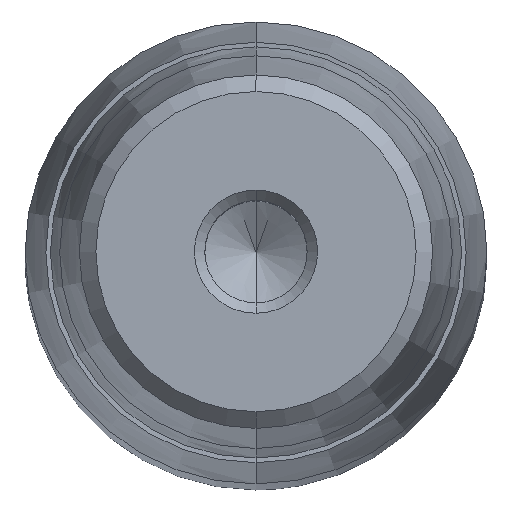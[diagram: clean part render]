
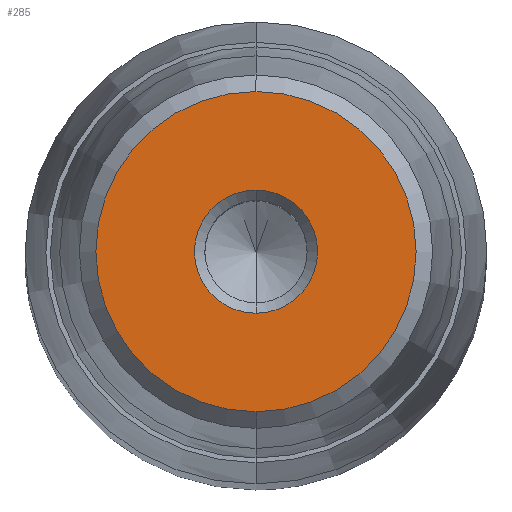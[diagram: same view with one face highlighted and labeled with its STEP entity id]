
A CAD part, top view. The second image highlights one B-rep face of the part: STEP entity #285.
In plain terms, the highlighted planar face has unit normal (0, 0, 1).
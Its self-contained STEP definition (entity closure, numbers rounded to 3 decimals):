
#164=CARTESIAN_POINT('Axis2P3D Location',(0.,0.,48.)) ;
#168=CARTESIAN_POINT('Vertex',(4.,0.,48.)) ;
#170=CARTESIAN_POINT('Vertex',(0.,-4.,48.)) ;
#173=CARTESIAN_POINT('Axis2P3D Location',(0.,0.,48.)) ;
#177=CARTESIAN_POINT('Vertex',(0.,4.,48.)) ;
#228=CARTESIAN_POINT('Axis2P3D Location',(0.,4.,48.)) ;
#233=CARTESIAN_POINT('Axis2P3D Location',(0.,0.,48.)) ;
#237=CARTESIAN_POINT('Vertex',(0.,10.4,48.)) ;
#239=CARTESIAN_POINT('Vertex',(10.4,0.,48.)) ;
#242=CARTESIAN_POINT('Axis2P3D Location',(0.,0.,48.)) ;
#246=CARTESIAN_POINT('Vertex',(-10.4,0.,48.)) ;
#249=CARTESIAN_POINT('Axis2P3D Location',(0.,0.,48.)) ;
#253=CARTESIAN_POINT('Vertex',(0.,-10.4,48.)) ;
#256=CARTESIAN_POINT('Axis2P3D Location',(0.,0.,48.)) ;
#267=CARTESIAN_POINT('Axis2P3D Location',(0.,0.,48.)) ;
#271=CARTESIAN_POINT('Vertex',(-4.,0.,48.)) ;
#274=CARTESIAN_POINT('Axis2P3D Location',(0.,0.,48.)) ;
#165=DIRECTION('Axis2P3D Direction',(-0.,0.,1.)) ;
#174=DIRECTION('Axis2P3D Direction',(-0.,0.,1.)) ;
#229=DIRECTION('Axis2P3D Direction',(0.,0.,-1.)) ;
#230=DIRECTION('Axis2P3D XDirection',(0.,1.,0.)) ;
#234=DIRECTION('Axis2P3D Direction',(0.,0.,-1.)) ;
#243=DIRECTION('Axis2P3D Direction',(0.,0.,-1.)) ;
#250=DIRECTION('Axis2P3D Direction',(0.,0.,-1.)) ;
#257=DIRECTION('Axis2P3D Direction',(0.,0.,-1.)) ;
#268=DIRECTION('Axis2P3D Direction',(0.,0.,-1.)) ;
#275=DIRECTION('Axis2P3D Direction',(0.,0.,-1.)) ;
#166=AXIS2_PLACEMENT_3D('Circle Axis2P3D',#164,#165,$) ;
#175=AXIS2_PLACEMENT_3D('Circle Axis2P3D',#173,#174,$) ;
#231=AXIS2_PLACEMENT_3D('Plane Axis2P3D',#228,#229,#230) ;
#235=AXIS2_PLACEMENT_3D('Circle Axis2P3D',#233,#234,$) ;
#244=AXIS2_PLACEMENT_3D('Circle Axis2P3D',#242,#243,$) ;
#251=AXIS2_PLACEMENT_3D('Circle Axis2P3D',#249,#250,$) ;
#258=AXIS2_PLACEMENT_3D('Circle Axis2P3D',#256,#257,$) ;
#269=AXIS2_PLACEMENT_3D('Circle Axis2P3D',#267,#268,$) ;
#276=AXIS2_PLACEMENT_3D('Circle Axis2P3D',#274,#275,$) ;
#262=ORIENTED_EDGE('',*,*,#241,.F.) ;
#263=ORIENTED_EDGE('',*,*,#248,.F.) ;
#264=ORIENTED_EDGE('',*,*,#255,.F.) ;
#265=ORIENTED_EDGE('',*,*,#260,.F.) ;
#280=ORIENTED_EDGE('',*,*,#172,.T.) ;
#281=ORIENTED_EDGE('',*,*,#273,.T.) ;
#282=ORIENTED_EDGE('',*,*,#278,.T.) ;
#283=ORIENTED_EDGE('',*,*,#179,.T.) ;
#284=FACE_BOUND('',#279,.T.) ;
#285=ADVANCED_FACE('722-30x250x283',(#266,#284),#232,.F.) ;
#167=CIRCLE('generated circle',#166,4.) ;
#176=CIRCLE('generated circle',#175,4.) ;
#236=CIRCLE('generated circle',#235,10.4) ;
#245=CIRCLE('generated circle',#244,10.4) ;
#252=CIRCLE('generated circle',#251,10.4) ;
#259=CIRCLE('generated circle',#258,10.4) ;
#270=CIRCLE('generated circle',#269,4.) ;
#277=CIRCLE('generated circle',#276,4.) ;
#172=EDGE_CURVE('',#169,#171,#167,.F.) ;
#179=EDGE_CURVE('',#178,#169,#176,.F.) ;
#241=EDGE_CURVE('',#238,#240,#236,.T.) ;
#248=EDGE_CURVE('',#247,#238,#245,.T.) ;
#255=EDGE_CURVE('',#254,#247,#252,.T.) ;
#260=EDGE_CURVE('',#240,#254,#259,.T.) ;
#273=EDGE_CURVE('',#171,#272,#270,.T.) ;
#278=EDGE_CURVE('',#272,#178,#277,.T.) ;
#261=EDGE_LOOP('',(#262,#263,#264,#265)) ;
#279=EDGE_LOOP('',(#280,#281,#282,#283)) ;
#266=FACE_OUTER_BOUND('',#261,.T.) ;
#232=PLANE('Plane',#231) ;
#169=VERTEX_POINT('',#168) ;
#171=VERTEX_POINT('',#170) ;
#178=VERTEX_POINT('',#177) ;
#238=VERTEX_POINT('',#237) ;
#240=VERTEX_POINT('',#239) ;
#247=VERTEX_POINT('',#246) ;
#254=VERTEX_POINT('',#253) ;
#272=VERTEX_POINT('',#271) ;
